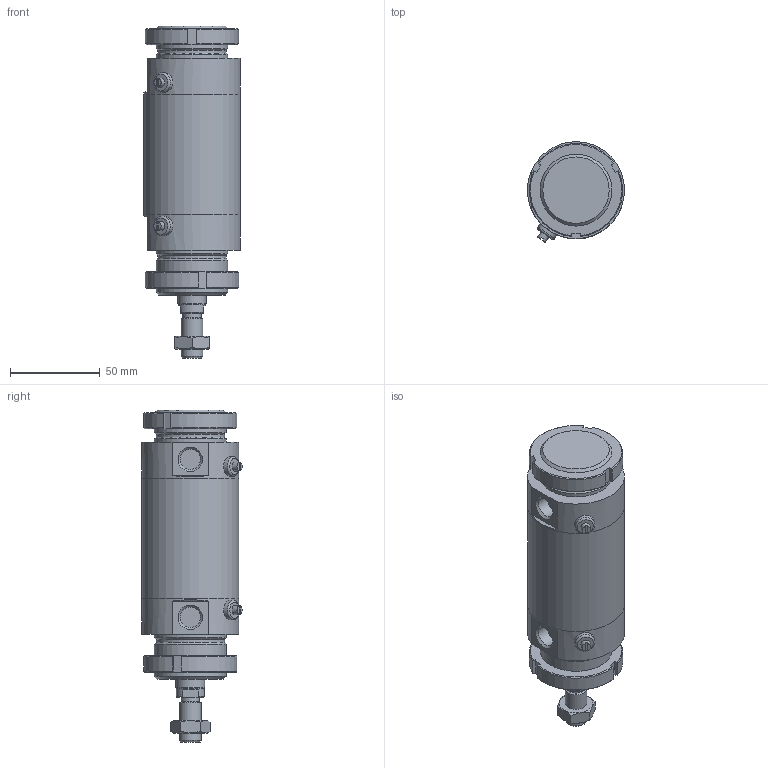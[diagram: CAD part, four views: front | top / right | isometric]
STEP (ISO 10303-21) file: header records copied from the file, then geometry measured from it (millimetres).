
FILE_DESCRIPTION(/* description */ (''),/* implementation_level */ '2;1');
FILE_NAME(/* name */ 'I:\Area Tecnica\Documenti\A-Manieri\_Inventor\12X\12X#C_###_####_#_#\12XBC_050_0025_#_#.stp',/* time_stamp */ '2015-04-28T15:43:30+02:00',/* author */ ('maniean1'),/* organization */ ('Pneumax S.p.A.'),/* preprocessor_version */ 'ST-DEVELOPER v15.2',/* originating_system */ 'Autodesk Inventor 2014',/* authorisation */ '');
FILE_SCHEMA (('AUTOMOTIVE_DESIGN { 1 0 10303 214 3 1 1 }'));
Length unit declared in the file: millimetre
Products named in the file (7): C1250_619-0025; 12X50_606; S12X50_0025; 12X_50_11; 12X50_621; G12X_050_05; 12XBC_050_0025_#_#
Bounding box: 54 x 55.88 x 185 mm (x, y, z)
Volume: 275327.3 mm3; surface area: 71448.5 mm2
Topology: 7 solids, 7 shells, 124 faces, 282 edges, 182 vertices
Faces by surface type: plane 64, cylinder 31, cone 27, torus 2
Full cylindrical faces by diameter (mm): 5 x2, 10.2 x1, 11 x2, 11.4 x2, 12 x2, 14 x1, 15.6 x1, 16 x1, 38.2 x2, 40 x6, 50 x2, 54 x3
Entity records: 2755 total; most frequent: CARTESIAN_POINT 553, DIRECTION 462, ORIENTED_EDGE 356, AXIS2_PLACEMENT_3D 197, EDGE_CURVE 178, EDGE_LOOP 160, VERTEX_POINT 136, ADVANCED_FACE 103
